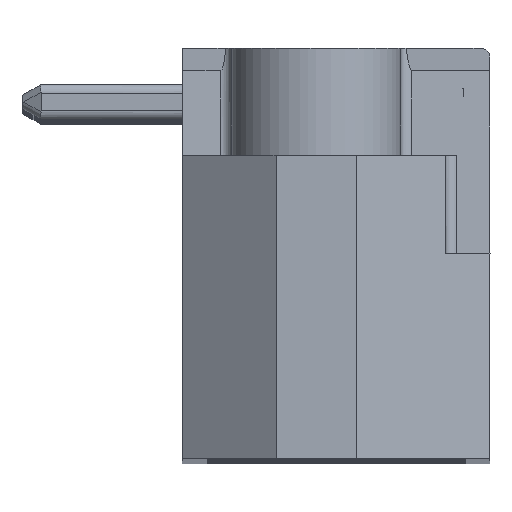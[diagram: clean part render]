
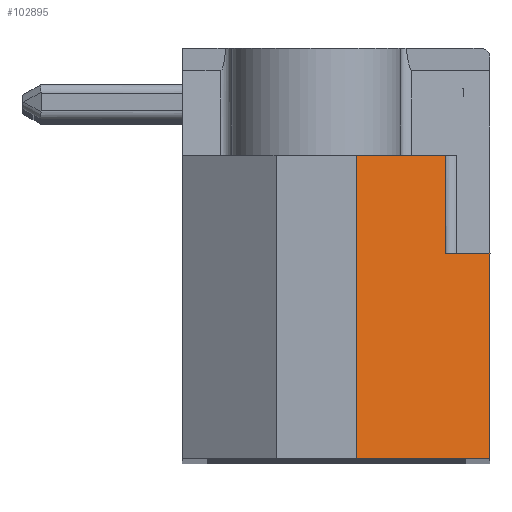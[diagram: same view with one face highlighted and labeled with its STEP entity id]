
A CAD part, top view. The second image highlights one B-rep face of the part: STEP entity #102895.
In plain terms, the highlighted planar face has unit normal (0.574, 0, 0.819).
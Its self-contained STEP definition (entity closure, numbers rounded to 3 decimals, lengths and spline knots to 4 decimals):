
#24753 = CARTESIAN_POINT ( 'NONE',  ( -19.4311, -27.66, -2.1 ) ) ;
#24762 = CARTESIAN_POINT ( 'NONE',  ( -20.4311, -27.66, -1.3998 ) ) ;
#24813 = CARTESIAN_POINT ( 'NONE',  ( -20.4311, -27.66, -1.3998 ) ) ;
#24814 = CARTESIAN_POINT ( 'NONE',  ( -20.0978, -27.66, -1.6332 ) ) ;
#24815 = CARTESIAN_POINT ( 'NONE',  ( -19.7644, -27.66, -1.8666 ) ) ;
#24816 = CARTESIAN_POINT ( 'NONE',  ( -19.4311, -27.66, -2.1 ) ) ;
#24817 = B_SPLINE_CURVE_WITH_KNOTS ( 'NONE', 3,
 ( #24816, #24815, #24814, #24813 ),
 .UNSPECIFIED., .F., .F.,
 ( 4, 4 ),
 ( 0., 1. ),
 .UNSPECIFIED. ) ;
#24864 = CARTESIAN_POINT ( 'NONE',  ( -22.4302, -25.46, 0. ) ) ;
#24865 = DIRECTION ( 'NONE',  ( -0.819, 0., 0.574 ) ) ;
#24866 = VECTOR ( 'NONE', #24865, 1000. ) ;
#24867 = CARTESIAN_POINT ( 'NONE',  ( -20.9306, -25.46, -1.05 ) ) ;
#24868 = LINE ( 'NONE', #24867, #24866 ) ;
#24905 = DIRECTION ( 'NONE',  ( 0., 1., 0. ) ) ;
#24906 = VECTOR ( 'NONE', #24905, 1000. ) ;
#24907 = CARTESIAN_POINT ( 'NONE',  ( -20.4311, -28.86, -1.3998 ) ) ;
#24908 = LINE ( 'NONE', #24907, #24906 ) ;
#24909 = CARTESIAN_POINT ( 'NONE',  ( -20.4311, -25.46, -1.3998 ) ) ;
#27104 = DIRECTION ( 'NONE',  ( -0.819, 0., 0.574 ) ) ;
#27105 = VECTOR ( 'NONE', #27104, 1000. ) ;
#27106 = CARTESIAN_POINT ( 'NONE',  ( -19.4311, -32.26, -2.1 ) ) ;
#27107 = LINE ( 'NONE', #27106, #27105 ) ;
#27108 = DIRECTION ( 'NONE',  ( 0., 1., 0. ) ) ;
#27109 = VECTOR ( 'NONE', #27108, 1000. ) ;
#27111 = CARTESIAN_POINT ( 'NONE',  ( -22.4302, -28.86, 0. ) ) ;
#27116 = LINE ( 'NONE', #27111, #27109 ) ;
#27133 = FACE_OUTER_BOUND ( 'NONE', #102896, .T. ) ;
#27137 = PLANE ( 'NONE',  #27192 ) ;
#27138 = CARTESIAN_POINT ( 'NONE',  ( -19.4311, -27.66, -2.1 ) ) ;
#27139 = CARTESIAN_POINT ( 'NONE',  ( -19.4311, -29.1934, -2.1 ) ) ;
#27140 = CARTESIAN_POINT ( 'NONE',  ( -19.4311, -30.7267, -2.1 ) ) ;
#27141 = CARTESIAN_POINT ( 'NONE',  ( -19.4311, -32.26, -2.1 ) ) ;
#27142 = CARTESIAN_POINT ( 'NONE',  ( -19.4311, -32.26, -2.1 ) ) ;
#27143 = B_SPLINE_CURVE_WITH_KNOTS ( 'NONE', 3,
 ( #27141, #27140, #27139, #27138 ),
 .UNSPECIFIED., .F., .F.,
 ( 4, 4 ),
 ( 0., 1. ),
 .UNSPECIFIED. ) ;
#27184 = CARTESIAN_POINT ( 'NONE',  ( -22.4302, -32.26, 0. ) ) ;
#27189 = DIRECTION ( 'NONE',  ( 0.819, 0., -0.574 ) ) ;
#27190 = DIRECTION ( 'NONE',  ( 0.574, 0., 0.819 ) ) ;
#27191 = CARTESIAN_POINT ( 'NONE',  ( -22.4302, -32.26, 0. ) ) ;
#27192 = AXIS2_PLACEMENT_3D ( 'NONE', #27191, #27190, #27189 ) ;
#100207 = VERTEX_POINT ( 'NONE', #24753 ) ;
#100247 = VERTEX_POINT ( 'NONE', #24762 ) ;
#100251 = EDGE_CURVE ( 'NONE', #100207, #100247, #24817, .T. ) ;
#100306 = EDGE_CURVE ( 'NONE', #100339, #100308, #24868, .T. ) ;
#100308 = VERTEX_POINT ( 'NONE', #24864 ) ;
#100339 = VERTEX_POINT ( 'NONE', #24909 ) ;
#100344 = EDGE_CURVE ( 'NONE', #100247, #100339, #24908, .T. ) ;
#102854 = EDGE_CURVE ( 'NONE', #102909, #100308, #27116, .T. ) ;
#102856 = ORIENTED_EDGE ( 'NONE', *, *, #102858, .F. ) ;
#102858 = EDGE_CURVE ( 'NONE', #102888, #102909, #27107, .T. ) ;
#102860 = ORIENTED_EDGE ( 'NONE', *, *, #102886, .T. ) ;
#102886 = EDGE_CURVE ( 'NONE', #102888, #100207, #27143, .T. ) ;
#102888 = VERTEX_POINT ( 'NONE', #27142 ) ;
#102895 = ADVANCED_FACE ( 'NONE', ( #27133 ), #27137, .T. ) ;
#102896 = EDGE_LOOP ( 'NONE', ( #102898, #102904, #102907, #102908, #102856, #102860 ) ) ;
#102898 = ORIENTED_EDGE ( 'NONE', *, *, #100251, .T. ) ;
#102904 = ORIENTED_EDGE ( 'NONE', *, *, #100344, .T. ) ;
#102907 = ORIENTED_EDGE ( 'NONE', *, *, #100306, .T. ) ;
#102908 = ORIENTED_EDGE ( 'NONE', *, *, #102854, .F. ) ;
#102909 = VERTEX_POINT ( 'NONE', #27184 ) ;
